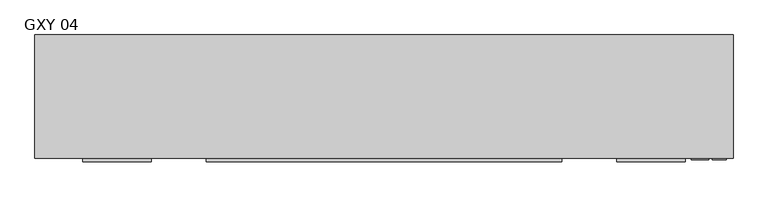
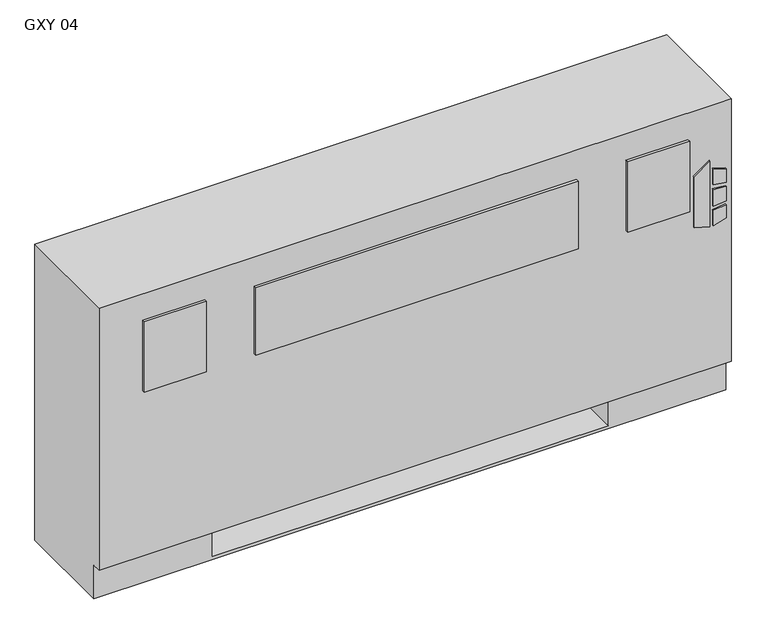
"""IFC4 building model written with IfcOpenShell, lengths in millimetres: proxy geometry, Vertical_Fan_Coil_Unit_-_GXY_-_IEC_-_2-Pipe_FS-FR_LH_2022 : GXY 04."""

from ifc_helpers import new_model, si_unit, point, frame, frame_2d, origin, place, context, project, spatial, polyline, circle_curve, trimmed, segment, composite_curve, outline, extrude, source, transform, mapped, element, save
from ifc_brep_helpers import plane_surface, revolved_surface, advanced_brep


def gxy_04_c9e6a3fd(model_context):
    return source(origin(), model_context, "Body", "SolidModel", [
        extrude(outline(polyline([(391.6086829, 722.3868862), (381.6606126, 754.5602728), (523.831537, 754.5602728), (500.8095309, 722.3868862), (391.6086829, 722.3868862)])), frame((0.0, 12.7, 0.0), z_axis=(0.0, 1.0, 0.0), x_axis=(0.0, 0.0, 1.0)), (0.0, 0.0, 1.0), 3.175),
        extrude(outline(polyline([(470.6079683, 761.3186058), (467.4055757, 787.4), (496.6344168, 787.4), (504.6988318, 761.3186058), (470.6079683, 761.3186058)])), frame((0.0, 12.7, 0.0), z_axis=(0.0, 1.0, 0.0), x_axis=(0.0, 0.0, 1.0)), (0.0, 0.0, 1.0), 3.175),
        extrude(outline(polyline([(418.7444414, 787.4), (415.0789404, 761.3186058), (381.6606126, 761.3186058), (390.2948498, 787.4), (418.7444414, 787.4)])), frame((0.0, 12.7, 0.0), z_axis=(0.0, 1.0, 0.0), x_axis=(0.0, 0.0, 1.0)), (0.0, 0.0, 1.0), 3.175),
        extrude(outline(polyline([(458.0596028, 787.4), (460.3414292, 761.3186058), (424.4038806, 761.3186058), (427.1451456, 787.4), (458.0596028, 787.4)])), frame((0.0, 12.7, 0.0), z_axis=(0.0, 1.0, 0.0), x_axis=(0.0, 0.0, 1.0)), (0.0, 0.0, 1.0), 3.175),
        extrude(outline(polyline([(-279.4, 9.525), (-406.4, 9.525), (-406.4, 15.875), (-279.4, 15.875), (-279.4, 9.525)])), frame((0.0, 0.0, 431.8), z_axis=(0.0, 0.0, 1.0), x_axis=(1.0, 0.0, 0.0)), (0.0, 0.0, 1.0), 152.4),
        extrude(outline(polyline([(482.6, 9.525), (-177.8, 9.525), (-177.8, 15.875), (482.6, 15.875), (482.6, 9.525)])), frame((0.0, 0.0, 431.8), z_axis=(0.0, 0.0, 1.0), x_axis=(1.0, 0.0, 0.0)), (0.0, 0.0, 1.0), 146.05),
        extrude(outline(polyline([(711.2, 9.525), (584.2, 9.525), (584.2, 15.875), (711.2, 15.875), (711.2, 9.525)])), frame((0.0, 0.0, 431.8), z_axis=(0.0, 0.0, 1.0), x_axis=(1.0, 0.0, 0.0)), (0.0, 0.0, 1.0), 152.4),
        extrude(outline(polyline([(558.8, 81.534), (558.8, 223.266), (679.45, 223.266), (679.45, 81.534), (558.8, 81.534)])), frame((0.0, 0.0, 327.025), z_axis=(0.0, 0.0, 1.0), x_axis=(1.0, 0.0, 0.0)), (0.0, 0.0, 1.0), 260.35),
        extrude(outline(composite_curve([segment(trimmed(circle_curve(frame_2d((78.9432, 398.5514)), 7.9375), [point((78.9432, 406.4889))], [point((78.9432, 390.6139))], False, "CARTESIAN"), True, "CONTINUOUS"), segment(trimmed(circle_curve(frame_2d((78.9432, 398.5514)), 7.9375), [point((78.9432, 390.6139))], [point((78.9432, 406.4889))], False, "CARTESIAN"), True, "CONTINUOUS")], self_intersect=False)), frame((-304.8, 0.0, 0.0), z_axis=(1.0, 0.0, 0.0), x_axis=(0.0, 1.0, 0.0)), (0.0, 0.0, 1.0), 50.8),
        extrude(outline(composite_curve([segment(trimmed(circle_curve(frame_2d((155.9052, 537.3878)), 7.9375), [point((155.9052, 545.3253))], [point((155.9052, 529.4503))], False, "CARTESIAN"), True, "CONTINUOUS"), segment(trimmed(circle_curve(frame_2d((155.9052, 537.3878)), 7.9375), [point((155.9052, 529.4503))], [point((155.9052, 545.3253))], False, "CARTESIAN"), True, "CONTINUOUS")], self_intersect=False)), frame((-304.8, 0.0, 0.0), z_axis=(1.0, 0.0, 0.0), x_axis=(0.0, 1.0, 0.0)), (0.0, 0.0, 1.0), 50.8),
        advanced_brep(
        [(800.1, 244.475, 641.35), (-495.3, 244.475, 641.35), (-495.3, 15.875, 641.35), (800.1, 15.875, 641.35), (-495.3, 244.475, 0.0), (800.1, 244.475, 0.0), (800.1, 34.925, 0.0), (-495.3, 34.925, 0.0), (558.8, 244.475, 73.025), (787.4, 244.475, 73.025), (787.4, 244.475, 628.65), (558.8, 244.475, 628.65), (558.8, 244.475, 418.0400565), (587.375, 244.475, 418.0400565), (587.375, 244.475, 388.4099435), (558.8, 244.475, 388.4099435), (558.8, 244.475, 290.5125), (587.375, 244.475, 290.5125), (587.375, 244.475, 261.9375), (558.8, 244.475, 261.9375), (558.8, 244.475, 119.0625), (587.375, 244.475, 119.0625), (587.375, 244.475, 90.4875), (558.8, 244.475, 90.4875), (-254.0, 244.475, 628.65), (-482.6, 244.475, 628.65), (-482.6, 244.475, 73.025), (-254.0, 244.475, 73.025), (-254.0, 244.475, 90.4875), (-282.575, 244.475, 90.4875), (-282.575, 244.475, 119.0625), (-254.0, 244.475, 119.0625), (-254.0, 244.475, 261.9375), (-282.575, 244.475, 261.9375), (-282.575, 244.475, 290.5125), (-254.0, 244.475, 290.5125), (-254.0, 244.475, 388.4099435), (-282.575, 244.475, 388.4099435), (-282.575, 244.475, 418.0400565), (-254.0, 244.475, 418.0400565), (577.0626, 244.475, 104.775), (565.9374, 244.475, 104.775), (577.0626, 244.475, 403.225), (565.9374, 244.475, 403.225), (577.0626, 244.475, 276.225), (565.9374, 244.475, 276.225), (-261.1374, 244.475, 104.775), (-272.2626, 244.475, 104.775), (-261.1374, 244.475, 276.225), (-272.2626, 244.475, 276.225), (-261.1374, 244.475, 403.225), (-272.2626, 244.475, 403.225), (-495.3, 34.925, 73.025), (-495.3, 15.875, 73.025), (800.1, 15.875, 73.025), (800.1, 34.925, 73.025), (-254.0, 34.925, 73.025), (-254.0, 219.075, 73.025), (558.8, 219.075, 73.025), (558.8, 34.925, 73.025), (558.8, 34.925, 6.35), (-254.0, 34.925, 6.35), (558.8, 41.275, 628.65), (787.4, 41.275, 628.65), (787.4, 41.275, 73.025), (558.8, 41.275, 73.025), (-254.0, 41.275, 628.65), (-254.0, 41.275, 73.025), (-482.6, 41.275, 73.025), (-482.6, 41.275, 628.65), (558.8, 219.075, 73.025), (558.8, 238.125, 90.4875), (558.8, 238.125, 119.0625), (558.8, 238.125, 261.9375), (558.8, 238.125, 290.5125), (558.8, 238.125, 388.4099435), (558.8, 238.125, 418.0400565), (-254.0, 219.075, 73.025), (-254.0, 238.125, 418.0400565), (-254.0, 238.125, 388.4099435), (-254.0, 238.125, 290.5125), (-254.0, 238.125, 261.9375), (-254.0, 238.125, 119.0625), (-254.0, 238.125, 90.4875), (-254.0, 219.075, 6.35), (558.8, 219.075, 6.35), (587.375, 238.125, 90.4875), (587.375, 238.125, 119.0625), (565.9374, 238.125, 104.775), (577.0626, 238.125, 104.775), (587.375, 238.125, 261.9375), (587.375, 238.125, 290.5125), (565.9374, 238.125, 276.225), (577.0626, 238.125, 276.225), (587.375, 238.125, 388.4099435), (587.375, 238.125, 418.0400565), (565.9374, 238.125, 403.225), (577.0626, 238.125, 403.225), (-282.575, 238.125, 119.0625), (-282.575, 238.125, 90.4875), (-272.2626, 238.125, 104.775), (-261.1374, 238.125, 104.775), (-282.575, 238.125, 290.5125), (-282.575, 238.125, 261.9375), (-272.2626, 238.125, 276.225), (-261.1374, 238.125, 276.225), (-282.575, 238.125, 418.0400565), (-282.575, 238.125, 388.4099435), (-272.2626, 238.125, 403.225), (-261.1374, 238.125, 403.225)],
        [
            (0, 1),
            (1, 2),
            (2, 3),
            (3, 0),
            (4, 5),
            (5, 6),
            (6, 7),
            (7, 4),
            (0, 5),
            (4, 1),
            (8, 9),
            (9, 10),
            (10, 11),
            (11, 12),
            (12, 13),
            (13, 14),
            (14, 15),
            (15, 16),
            (16, 17),
            (17, 18),
            (18, 19),
            (19, 20),
            (20, 21),
            (21, 22),
            (22, 23),
            (23, 8),
            (24, 25),
            (25, 26),
            (26, 27),
            (27, 28),
            (28, 29),
            (29, 30),
            (30, 31),
            (31, 32),
            (32, 33),
            (33, 34),
            (34, 35),
            (35, 36),
            (36, 37),
            (37, 38),
            (38, 39),
            (39, 24),
            (40, 41, circle_curve(frame((571.5, 244.475, 104.775), z_axis=(0.0, -1.0, 0.0), x_axis=(-1.0, 0.0, 0.0)), 5.5626)),
            (41, 40, circle_curve(frame((571.5, 244.475, 104.775), z_axis=(0.0, -1.0, 0.0), x_axis=(-1.0, 0.0, 0.0)), 5.5626)),
            (42, 43, circle_curve(frame((571.5, 244.475, 403.225), z_axis=(0.0, -1.0, 0.0), x_axis=(-1.0, 0.0, 0.0)), 5.5626)),
            (43, 42, circle_curve(frame((571.5, 244.475, 403.225), z_axis=(0.0, -1.0, 0.0), x_axis=(-1.0, 0.0, 0.0)), 5.5626)),
            (44, 45, circle_curve(frame((571.5, 244.475, 276.225), z_axis=(0.0, -1.0, 0.0), x_axis=(-1.0, 0.0, 0.0)), 5.5626)),
            (45, 44, circle_curve(frame((571.5, 244.475, 276.225), z_axis=(0.0, -1.0, 0.0), x_axis=(-1.0, 0.0, 0.0)), 5.5626)),
            (46, 47, circle_curve(frame((-266.7, 244.475, 104.775), z_axis=(0.0, -1.0, 0.0), x_axis=(-1.0, 0.0, 0.0)), 5.5626)),
            (47, 46, circle_curve(frame((-266.7, 244.475, 104.775), z_axis=(0.0, -1.0, 0.0), x_axis=(-1.0, 0.0, 0.0)), 5.5626)),
            (48, 49, circle_curve(frame((-266.7, 244.475, 276.225), z_axis=(0.0, -1.0, 0.0), x_axis=(-1.0, 0.0, 0.0)), 5.5626)),
            (49, 48, circle_curve(frame((-266.7, 244.475, 276.225), z_axis=(0.0, -1.0, 0.0), x_axis=(-1.0, 0.0, 0.0)), 5.5626)),
            (50, 51, circle_curve(frame((-266.7, 244.475, 403.225), z_axis=(0.0, -1.0, 0.0), x_axis=(-1.0, 0.0, 0.0)), 5.5626)),
            (51, 50, circle_curve(frame((-266.7, 244.475, 403.225), z_axis=(0.0, -1.0, 0.0), x_axis=(-1.0, 0.0, 0.0)), 5.5626)),
            (7, 52),
            (52, 53),
            (53, 2),
            (53, 54),
            (54, 3),
            (54, 55),
            (55, 6),
            (52, 56),
            (56, 57),
            (57, 58),
            (58, 59),
            (59, 55),
            (59, 60),
            (60, 61),
            (61, 56),
            (62, 63),
            (63, 64),
            (64, 65),
            (65, 62),
            (66, 67),
            (67, 68),
            (68, 69),
            (69, 66),
            (65, 70),
            (70, 8),
            (23, 71),
            (71, 72),
            (72, 20),
            (19, 73),
            (73, 74),
            (74, 16),
            (15, 75),
            (75, 76),
            (76, 12),
            (11, 62),
            (64, 9),
            (63, 10),
            (69, 25),
            (24, 66),
            (68, 26),
            (67, 77),
            (77, 27),
            (39, 78),
            (78, 79),
            (79, 36),
            (35, 80),
            (80, 81),
            (81, 32),
            (31, 82),
            (82, 83),
            (83, 28),
            (57, 84),
            (84, 85),
            (85, 58),
            (85, 60),
            (84, 61),
            (71, 86),
            (86, 87),
            (87, 72),
            (88, 89, circle_curve(frame((571.5, 238.125, 104.775), z_axis=(0.0, 1.0, 0.0), x_axis=(-1.0, 0.0, 0.0)), 5.5626)),
            (89, 88, circle_curve(frame((571.5, 238.125, 104.775), z_axis=(0.0, 1.0, 0.0), x_axis=(-1.0, 0.0, 0.0)), 5.5626)),
            (73, 90),
            (90, 91),
            (91, 74),
            (92, 93, circle_curve(frame((571.5, 238.125, 276.225), z_axis=(0.0, 1.0, 0.0), x_axis=(-1.0, 0.0, 0.0)), 5.5626)),
            (93, 92, circle_curve(frame((571.5, 238.125, 276.225), z_axis=(0.0, 1.0, 0.0), x_axis=(-1.0, 0.0, 0.0)), 5.5626)),
            (75, 94),
            (94, 95),
            (95, 76),
            (96, 97, circle_curve(frame((571.5, 238.125, 403.225), z_axis=(0.0, 1.0, 0.0), x_axis=(-1.0, 0.0, 0.0)), 5.5626)),
            (97, 96, circle_curve(frame((571.5, 238.125, 403.225), z_axis=(0.0, 1.0, 0.0), x_axis=(-1.0, 0.0, 0.0)), 5.5626)),
            (98, 99),
            (99, 83),
            (82, 98),
            (100, 101, circle_curve(frame((-266.7, 238.125, 104.775), z_axis=(0.0, 1.0, 0.0), x_axis=(-1.0, 0.0, 0.0)), 5.5626)),
            (101, 100, circle_curve(frame((-266.7, 238.125, 104.775), z_axis=(0.0, 1.0, 0.0), x_axis=(-1.0, 0.0, 0.0)), 5.5626)),
            (102, 103),
            (103, 81),
            (80, 102),
            (104, 105, circle_curve(frame((-266.7, 238.125, 276.225), z_axis=(0.0, 1.0, 0.0), x_axis=(-1.0, 0.0, 0.0)), 5.5626)),
            (105, 104, circle_curve(frame((-266.7, 238.125, 276.225), z_axis=(0.0, 1.0, 0.0), x_axis=(-1.0, 0.0, 0.0)), 5.5626)),
            (106, 107),
            (107, 79),
            (78, 106),
            (108, 109, circle_curve(frame((-266.7, 238.125, 403.225), z_axis=(0.0, 1.0, 0.0), x_axis=(-1.0, 0.0, 0.0)), 5.5626)),
            (109, 108, circle_curve(frame((-266.7, 238.125, 403.225), z_axis=(0.0, 1.0, 0.0), x_axis=(-1.0, 0.0, 0.0)), 5.5626)),
            (87, 21),
            (86, 22),
            (91, 17),
            (90, 18),
            (95, 13),
            (94, 14),
            (30, 98),
            (99, 29),
            (34, 102),
            (103, 33),
            (38, 106),
            (107, 37),
            (88, 41),
            (40, 89),
            (96, 43),
            (42, 97),
            (92, 45),
            (44, 93),
            (100, 47),
            (46, 101),
            (104, 49),
            (48, 105),
            (108, 51),
            (50, 109),
        ],
        [
            plane_surface(frame((-495.3, 244.475, 641.35), z_axis=(0.0, 0.0, 1.0), x_axis=(-1.0, 0.0, 0.0))),
            plane_surface(frame((-495.3, 244.475, 0.0), z_axis=(0.0, 0.0, -1.0), x_axis=(1.0, 0.0, 0.0))),
            plane_surface(frame((800.1, 244.475, 641.35), z_axis=(0.0, 1.0, 0.0), x_axis=(0.0, 0.0, -1.0))),
            plane_surface(frame((-495.3, 244.475, 641.35), z_axis=(-1.0, 0.0, 0.0), x_axis=(0.0, 0.0, -1.0))),
            plane_surface(frame((-495.3, 15.875, 641.35), z_axis=(0.0, -1.0, 0.0), x_axis=(0.0, 0.0, -1.0))),
            plane_surface(frame((800.1, 15.875, 641.35), z_axis=(1.0, 0.0, 0.0), x_axis=(0.0, 0.0, -1.0))),
            plane_surface(frame((-495.3, 15.875, 73.025), z_axis=(0.0, 0.0, -1.0), x_axis=(1.0, 0.0, 0.0))),
            plane_surface(frame((-495.3, 34.925, 73.025), z_axis=(0.0, -1.0, 0.0), x_axis=(1.0, 0.0, 0.0))),
            plane_surface(frame((558.8, 41.275, 628.65), z_axis=(0.0, 1.0, 0.0), x_axis=(0.0, 0.0, -1.0))),
            plane_surface(frame((558.8, 41.275, 628.65), z_axis=(1.0, 0.0, 0.0), x_axis=(0.0, 1.0, 0.0))),
            plane_surface(frame((558.8, 41.275, 73.025), z_axis=(0.0, 0.0, 1.0), x_axis=(0.0, 1.0, 0.0))),
            plane_surface(frame((787.4, 41.275, 73.025), z_axis=(-1.0, 0.0, 0.0), x_axis=(0.0, 1.0, 0.0))),
            plane_surface(frame((787.4, 41.275, 628.65), z_axis=(0.0, 0.0, -1.0), x_axis=(0.0, 1.0, 0.0))),
            plane_surface(frame((-254.0, 41.275, 628.65), z_axis=(0.0, 0.0, -1.0), x_axis=(0.0, 1.0, 0.0))),
            plane_surface(frame((-482.6, 41.275, 628.65), z_axis=(1.0, 0.0, 0.0), x_axis=(0.0, 1.0, 0.0))),
            plane_surface(frame((-482.6, 41.275, 73.025), z_axis=(0.0, 0.0, 1.0), x_axis=(0.0, 1.0, 0.0))),
            plane_surface(frame((-254.0, 41.275, 73.025), z_axis=(-1.0, 0.0, 0.0), x_axis=(0.0, 1.0, 0.0))),
            plane_surface(frame((558.8, 219.075, 73.025), z_axis=(0.0, -1.0, 0.0), x_axis=(0.0, 0.0, -1.0))),
            plane_surface(frame((558.8, 219.075, 73.025), z_axis=(-1.0, 0.0, 0.0), x_axis=(0.0, -1.0, 0.0))),
            plane_surface(frame((558.8, 219.075, 6.35), z_axis=(0.0, 0.0, 1.0), x_axis=(0.0, -1.0, 0.0))),
            plane_surface(frame((-254.0, 219.075, 6.35), z_axis=(1.0, 0.0, 0.0), x_axis=(0.0, -1.0, 0.0))),
            plane_surface(frame((587.375, 238.125, 119.0625), z_axis=(0.0, -1.0, 0.0), x_axis=(-1.0, 0.0, 0.0))),
            plane_surface(frame((558.8, 244.475, 119.0625), z_axis=(0.0, 0.0, 1.0), x_axis=(0.0, -1.0, 0.0))),
            plane_surface(frame((587.375, 244.475, 119.0625), z_axis=(1.0, 0.0, 0.0), x_axis=(0.0, -1.0, 0.0))),
            plane_surface(frame((587.375, 244.475, 90.4875), z_axis=(0.0, 0.0, -1.0), x_axis=(0.0, -1.0, 0.0))),
            plane_surface(frame((558.8, 244.475, 290.5125), z_axis=(0.0, 0.0, 1.0), x_axis=(0.0, -1.0, 0.0))),
            plane_surface(frame((587.375, 244.475, 290.5125), z_axis=(1.0, 0.0, 0.0), x_axis=(0.0, -1.0, 0.0))),
            plane_surface(frame((587.375, 244.475, 261.9375), z_axis=(0.0, 0.0, -1.0), x_axis=(0.0, -1.0, 0.0))),
            plane_surface(frame((558.8, 244.475, 418.0400565), z_axis=(0.0, 0.0, 1.0), x_axis=(0.0, -1.0, 0.0))),
            plane_surface(frame((587.375, 244.475, 418.0400565), z_axis=(1.0, 0.0, 0.0), x_axis=(0.0, -1.0, 0.0))),
            plane_surface(frame((587.375, 244.475, 388.4099435), z_axis=(0.0, 0.0, -1.0), x_axis=(0.0, -1.0, 0.0))),
            plane_surface(frame((-282.575, 244.475, 119.0625), z_axis=(0.0, 0.0, 1.0), x_axis=(0.0, -1.0, 0.0))),
            plane_surface(frame((-254.0, 244.475, 90.4875), z_axis=(0.0, 0.0, -1.0), x_axis=(0.0, -1.0, 0.0))),
            plane_surface(frame((-282.575, 244.475, 90.4875), z_axis=(-1.0, 0.0, 0.0), x_axis=(0.0, -1.0, 0.0))),
            plane_surface(frame((-282.575, 244.475, 290.5125), z_axis=(0.0, 0.0, 1.0), x_axis=(0.0, -1.0, 0.0))),
            plane_surface(frame((-254.0, 244.475, 261.9375), z_axis=(0.0, 0.0, -1.0), x_axis=(0.0, -1.0, 0.0))),
            plane_surface(frame((-282.575, 244.475, 261.9375), z_axis=(-1.0, 0.0, 0.0), x_axis=(0.0, -1.0, 0.0))),
            plane_surface(frame((-282.575, 244.475, 418.0400565), z_axis=(0.0, 0.0, 1.0), x_axis=(0.0, -1.0, 0.0))),
            plane_surface(frame((-254.0, 244.475, 388.4099435), z_axis=(0.0, 0.0, -1.0), x_axis=(0.0, -1.0, 0.0))),
            plane_surface(frame((-282.575, 244.475, 388.4099435), z_axis=(-1.0, 0.0, 0.0), x_axis=(0.0, -1.0, 0.0))),
            revolved_surface(polyline([(565.9374, 238.125, 104.775), (565.9374, 244.475, 104.775)]), (571.5, 244.475, 104.775), (0.0, -1.0, 0.0)),
            revolved_surface(polyline([(565.9374, 238.125, 403.225), (565.9374, 244.475, 403.225)]), (571.5, 244.475, 403.225), (0.0, -1.0, 0.0)),
            revolved_surface(polyline([(565.9374, 238.125, 276.225), (565.9374, 244.475, 276.225)]), (571.5, 244.475, 276.225), (0.0, -1.0, 0.0)),
            revolved_surface(polyline([(-272.26259999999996, 238.125, 104.775), (-272.26259999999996, 244.475, 104.775)]), (-266.7, 244.475, 104.775), (0.0, -1.0, 0.0)),
            revolved_surface(polyline([(-272.26259999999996, 238.125, 276.225), (-272.26259999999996, 244.475, 276.225)]), (-266.7, 244.475, 276.225), (0.0, -1.0, 0.0)),
            revolved_surface(polyline([(-272.26259999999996, 238.125, 403.225), (-272.26259999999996, 244.475, 403.225)]), (-266.7, 244.475, 403.225), (0.0, -1.0, 0.0)),
        ],
        [
            (0, [[1, 2, 3, 4]]),
            (1, [[5, 6, 7, 8]]),
            (2, [[-1, 9, -5, 10], [11, 12, 13, 14, 15, 16, 17, 18, 19, 20, 21, 22, 23, 24, 25, 26], [27, 28, 29, 30, 31, 32, 33, 34, 35, 36, 37, 38, 39, 40, 41, 42], [43, 44], [45, 46], [47, 48], [49, 50], [51, 52], [53, 54]]),
            (3, [[-2, -10, -8, 55, 56, 57]]),
            (4, [[-3, -57, 58, 59]]),
            (5, [[-4, -59, 60, 61, -6, -9]]),
            (6, [[-56, 62, 63, 64, 65, 66, -60, -58]]),
            (7, [[-7, -61, -66, 67, 68, 69, -62, -55]]),
            (8, [[70, 71, 72, 73]]),
            (8, [[74, 75, 76, 77]]),
            (9, [[-73, 78, 79, -26, 80, 81, 82, -22, 83, 84, 85, -18, 86, 87, 88, -14, 89]]),
            (10, [[-72, 90, -11, -79, -78]]),
            (11, [[-71, 91, -12, -90]]),
            (12, [[-70, -89, -13, -91]]),
            (13, [[-77, 92, -27, 93]]),
            (14, [[-76, 94, -28, -92]]),
            (15, [[-75, 95, 96, -29, -94]]),
            (16, [[-74, -93, -42, 97, 98, 99, -38, 100, 101, 102, -34, 103, 104, 105, -30, -96, -95]]),
            (17, [[-64, 106, 107, 108]]),
            (18, [[-108, 109, -67, -65]]),
            (19, [[-107, 110, -68, -109]]),
            (20, [[-106, -63, -69, -110]]),
            (21, [[111, 112, 113, -81], [114, 115]]),
            (21, [[116, 117, 118, -84], [119, 120]]),
            (21, [[121, 122, 123, -87], [124, 125]]),
            (21, [[126, 127, -104, 128], [129, 130]]),
            (21, [[131, 132, -101, 133], [134, 135]]),
            (21, [[136, 137, -98, 138], [139, 140]]),
            (22, [[-113, 141, -23, -82]]),
            (23, [[-112, 142, -24, -141]]),
            (24, [[-111, -80, -25, -142]]),
            (25, [[-118, 143, -19, -85]]),
            (26, [[-117, 144, -20, -143]]),
            (27, [[-116, -83, -21, -144]]),
            (28, [[-123, 145, -15, -88]]),
            (29, [[-122, 146, -16, -145]]),
            (30, [[-121, -86, -17, -146]]),
            (31, [[-128, -103, -33, 147]]),
            (32, [[-127, 148, -31, -105]]),
            (33, [[-126, -147, -32, -148]]),
            (34, [[-133, -100, -37, 149]]),
            (35, [[-132, 150, -35, -102]]),
            (36, [[-131, -149, -36, -150]]),
            (37, [[-138, -97, -41, 151]]),
            (38, [[-137, 152, -39, -99]]),
            (39, [[-136, -151, -40, -152]]),
            (40, [[153, -43, 154, -114]]),
            (40, [[-153, -115, -154, -44]]),
            (41, [[155, -45, 156, -124]]),
            (41, [[-155, -125, -156, -46]]),
            (42, [[157, -47, 158, -119]]),
            (42, [[-157, -120, -158, -48]]),
            (43, [[159, -49, 160, -129]]),
            (43, [[-159, -130, -160, -50]]),
            (44, [[161, -51, 162, -134]]),
            (44, [[-161, -135, -162, -52]]),
            (45, [[163, -53, 164, -139]]),
            (45, [[-163, -140, -164, -54]]),
        ],
    ),
    ])


if __name__ == "__main__":
    model = new_model("IFC4")
    model_context = context("Model", 3, world=origin())
    ifc_project = project(units=[si_unit("LENGTHUNIT", "METRE", prefix="MILLI")], contexts=[model_context])
    site = spatial("IfcSite", under=ifc_project)
    building = spatial("IfcBuilding", under=site)
    placement = place(None, origin())
    gxy_04_shape = gxy_04_c9e6a3fd(model_context)
    element("IfcBuildingElementProxy", 1, Name="Vertical_Fan_Coil_Unit_-_GXY_-_IEC_-_2-Pipe_FS-FR_LH_2022 : GXY 04", ObjectType="Vertical_Fan_Coil_Unit_-_GXY_-_IEC_-_2-Pipe_FS-FR_LH_2022 : GXY 04", at=placement, inside=building, context=model_context, shape_type="MappedRepresentation", body=[
        mapped(gxy_04_shape, transform((0.0, 0.0, 0.0), x_axis=(1.0, 0.0, 0.0), y_axis=(0.0, 1.0, 0.0), z_axis=(0.0, 0.0, 1.0))),
    ])
    save(model, "model.ifc")
